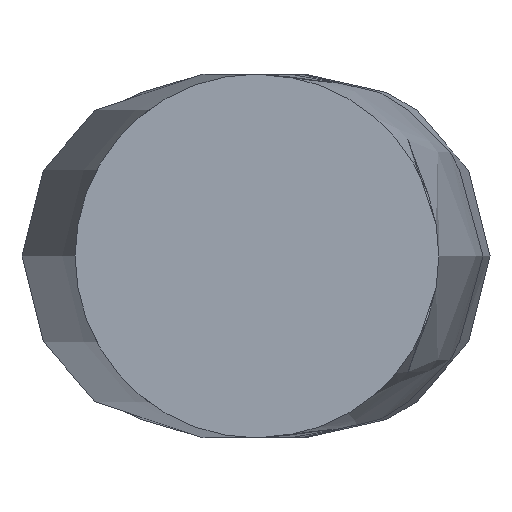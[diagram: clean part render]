
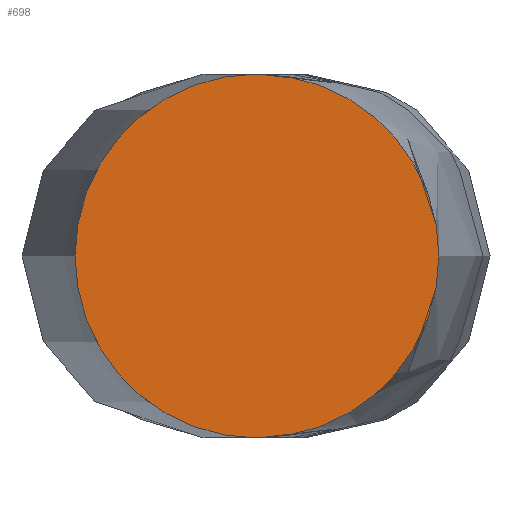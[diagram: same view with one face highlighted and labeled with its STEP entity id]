
A CAD part, front view. The second image highlights one B-rep face of the part: STEP entity #698.
In plain terms, the highlighted planar face has unit normal (0, -1, 0).
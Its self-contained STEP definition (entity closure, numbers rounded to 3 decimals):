
#3 = EDGE_CURVE ( 'NONE', #3763, #3124, #1520, .T. ) ;
#75 = DIRECTION ( 'NONE',  ( 0., 1., 0. ) ) ;
#202 = FACE_OUTER_BOUND ( 'NONE', #1086, .T. ) ;
#425 = CARTESIAN_POINT ( 'NONE',  ( 0., 0., -10. ) ) ;
#698 = ADVANCED_FACE ( 'NONE', ( #202 ), #1758, .F. ) ;
#942 = CARTESIAN_POINT ( 'NONE',  ( 0., 0., 0. ) ) ;
#943 = DIRECTION ( 'NONE',  ( 0., 1., 0. ) ) ;
#1066 = AXIS2_PLACEMENT_3D ( 'NONE', #942, #75, #2712 ) ;
#1086 = EDGE_LOOP ( 'NONE', ( #1736, #1749 ) ) ;
#1089 = AXIS2_PLACEMENT_3D ( 'NONE', #2403, #943, #1560 ) ;
#1364 = AXIS2_PLACEMENT_3D ( 'NONE', #1784, #2054, #2682 ) ;
#1520 = CIRCLE ( 'NONE', #1364, 10. ) ;
#1560 = DIRECTION ( 'NONE',  ( 0., 0., 1. ) ) ;
#1736 = ORIENTED_EDGE ( 'NONE', *, *, #2916, .F. ) ;
#1749 = ORIENTED_EDGE ( 'NONE', *, *, #3, .F. ) ;
#1758 = PLANE ( 'NONE',  #1089 ) ;
#1784 = CARTESIAN_POINT ( 'NONE',  ( 0., 0., 0. ) ) ;
#1791 = CIRCLE ( 'NONE', #1066, 10. ) ;
#2054 = DIRECTION ( 'NONE',  ( 0., 1., 0. ) ) ;
#2403 = CARTESIAN_POINT ( 'NONE',  ( 0., 0., 0. ) ) ;
#2682 = DIRECTION ( 'NONE',  ( 0., 0., 1. ) ) ;
#2712 = DIRECTION ( 'NONE',  ( 0., 0., 1. ) ) ;
#2789 = CARTESIAN_POINT ( 'NONE',  ( 0., 0., 10. ) ) ;
#2916 = EDGE_CURVE ( 'NONE', #3124, #3763, #1791, .T. ) ;
#3124 = VERTEX_POINT ( 'NONE', #2789 ) ;
#3763 = VERTEX_POINT ( 'NONE', #425 ) ;
